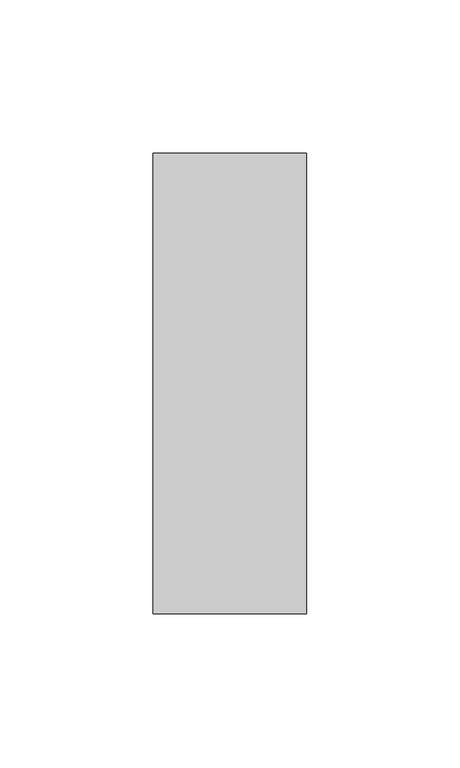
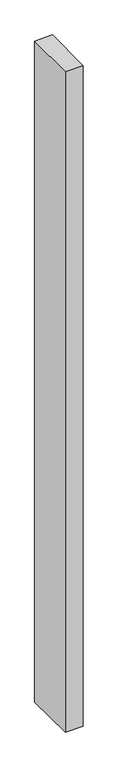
"""IFC4 building model written with IfcOpenShell, lengths in millimetres: member geometry, Прямоугольный импост : 50 x 150 мм."""

from ifc_helpers import new_model, si_unit, origin, place, context, project, spatial, faceted_brep, source, transform, mapped, element, save


def member_340a4622(model_context):
    return source(origin(), model_context, "Body", "Brep", [
        faceted_brep([(-25.0, 75.0, 0.2392229), (25.0, 75.0, 0.9291195), (25.0, 75.0, -1970.8160505), (-25.0, 75.0, -1970.1232918), (-25.0, -75.0, -0.9291195), (-25.0, -75.0, -1967.6308846), (25.0, -75.0, -0.2392229), (25.0, -75.0, -1968.3236433)], [[[0, 1, 2, 3]], [[4, 0, 3, 5]], [[6, 4, 5, 7]], [[1, 6, 7, 2]], [[1, 0, 4, 6]], [[2, 7, 5, 3]]]),
    ])


if __name__ == "__main__":
    model = new_model("IFC4")
    model_context = context("Model", 3, world=origin())
    ifc_project = project(units=[si_unit("LENGTHUNIT", "METRE", prefix="MILLI")], contexts=[model_context])
    site = spatial("IfcSite", under=ifc_project)
    building = spatial("IfcBuilding", under=site)
    placement = place(None, origin())
    member_shape = member_340a4622(model_context)
    element("IfcMember", 1, ObjectType="Прямоугольный импост : 50 x 150 мм", at=placement, inside=building, context=model_context, shape_type="MappedRepresentation", body=[
        mapped(member_shape, transform((0.0, 0.0, 0.0), x_axis=(1.0, 0.0, 0.0), y_axis=(0.0, 1.0, 0.0), z_axis=(0.0, 0.0, 1.0))),
    ])
    save(model, "model.ifc")
